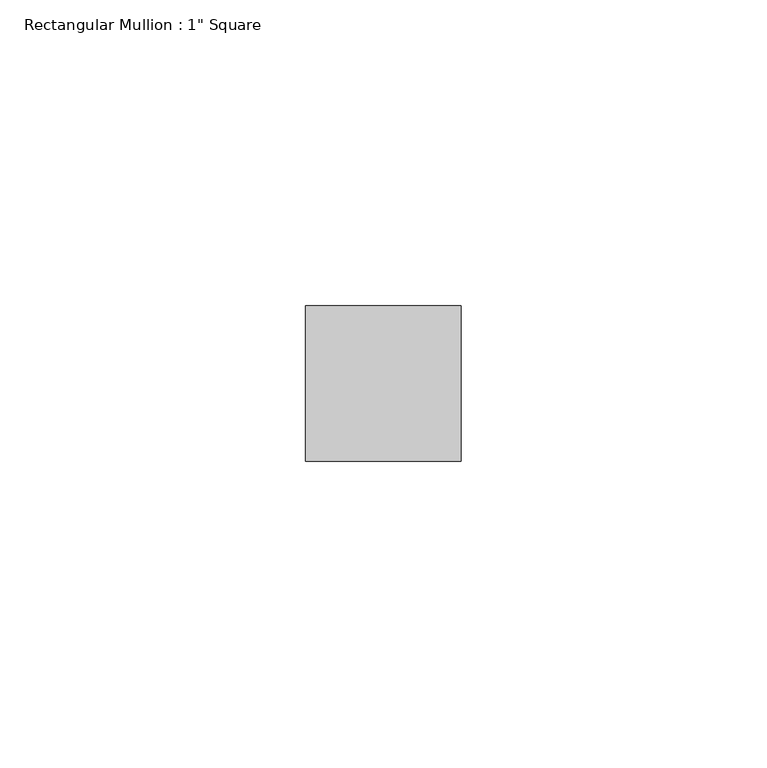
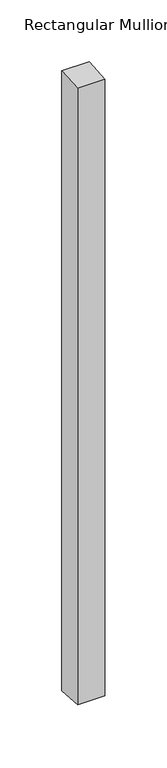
"""IFC4 building model written with IfcOpenShell, lengths in millimetres: member geometry."""

from ifc_helpers import new_model, si_unit, origin, place, context, project, spatial, faceted_brep, source, transform, mapped, element, save


def member_a6ff0e58(model_context):
    return source(origin(), model_context, "Body", "Brep", [
        faceted_brep([(-25.4, 12.7, 0.805304), (0.0, 12.7, 0.7583783), (0.0, 12.7, -610.3583783), (-25.4, 12.7, -610.405304), (-25.4, -12.7, -0.7114525), (-25.4, -12.7, -608.8885475), (0.0, -12.7, -0.7583783), (0.0, -12.7, -608.8416217)], [[[0, 1, 2, 3]], [[4, 0, 3, 5]], [[6, 4, 5, 7]], [[1, 6, 7, 2]], [[1, 0, 4, 6]], [[2, 7, 5, 3]]]),
    ])


if __name__ == "__main__":
    model = new_model("IFC4")
    model_context = context("Model", 3, world=origin())
    ifc_project = project(units=[si_unit("LENGTHUNIT", "METRE", prefix="MILLI")], contexts=[model_context])
    site = spatial("IfcSite", under=ifc_project)
    building = spatial("IfcBuilding", under=site)
    placement = place(None, origin())
    member_shape = member_a6ff0e58(model_context)
    element("IfcMember", 1, ObjectType="Rectangular Mullion : 1\" Square", at=placement, inside=building, context=model_context, shape_type="MappedRepresentation", body=[
        mapped(member_shape, transform((0.0, 0.0, 0.0), x_axis=(1.0, 0.0, 0.0), y_axis=(0.0, 1.0, 0.0), z_axis=(0.0, 0.0, 1.0))),
    ])
    save(model, "model.ifc")
